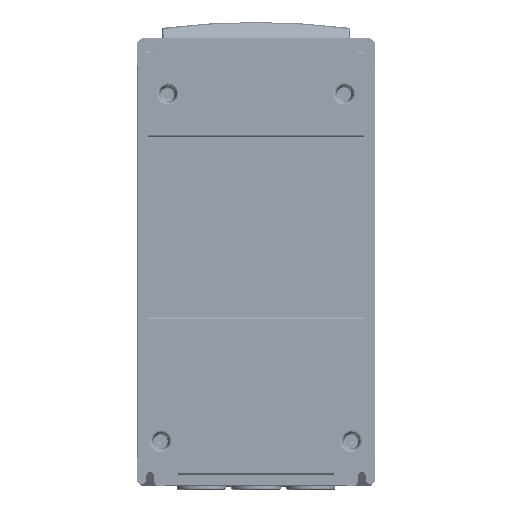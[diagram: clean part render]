
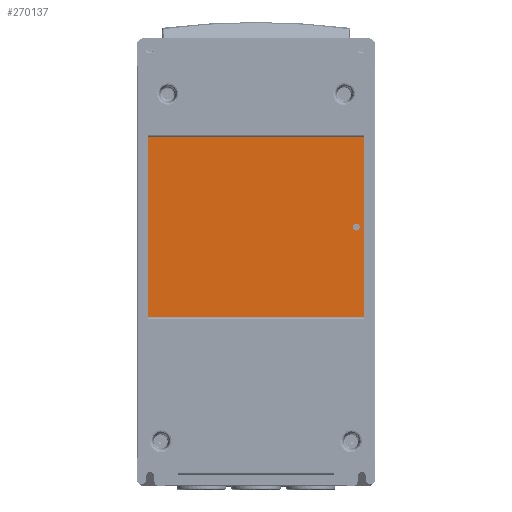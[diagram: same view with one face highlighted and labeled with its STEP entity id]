
A CAD part, front view. The second image highlights one B-rep face of the part: STEP entity #270137.
In plain terms, the highlighted planar face has unit normal (0, -1, 0) as drawn and (0, 0, 1) by its records, which use the part's own axes.
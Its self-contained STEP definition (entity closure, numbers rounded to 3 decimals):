
#1702 = ORIENTED_EDGE ( 'NONE', *, *, #61835, .T. ) ;
#9794 = VERTEX_POINT ( 'NONE', #97728 ) ;
#9889 = DIRECTION ( 'NONE',  ( 1., 0., 0. ) ) ;
#12224 = CARTESIAN_POINT ( 'NONE',  ( 77., 35.25, -9.7 ) ) ;
#15525 = FACE_OUTER_BOUND ( 'NONE', #207251, .T. ) ;
#22159 = VECTOR ( 'NONE', #237643, 1000. ) ;
#22894 = AXIS2_PLACEMENT_3D ( 'NONE', #158791, #264800, #347349 ) ;
#25383 = AXIS2_PLACEMENT_3D ( 'NONE', #237192, #153568, #289033 ) ;
#25821 = AXIS2_PLACEMENT_3D ( 'NONE', #283241, #255015, #9889 ) ;
#32346 = CARTESIAN_POINT ( 'NONE',  ( -77., 33.75, -9.7 ) ) ;
#42917 = DIRECTION ( 'NONE',  ( 0., 1., 0. ) ) ;
#53711 = CARTESIAN_POINT ( 'NONE',  ( 85., 35.25, -9.7 ) ) ;
#58664 = VERTEX_POINT ( 'NONE', #12224 ) ;
#61835 = EDGE_CURVE ( 'NONE', #121085, #9794, #302513, .T. ) ;
#66903 = ORIENTED_EDGE ( 'NONE', *, *, #86089, .T. ) ;
#80317 = VECTOR ( 'NONE', #42917, 1000. ) ;
#84982 = VERTEX_POINT ( 'NONE', #103907 ) ;
#86089 = EDGE_CURVE ( 'NONE', #58664, #84982, #282735, .T. ) ;
#87292 = FACE_BOUND ( 'NONE', #271677, .T. ) ;
#97728 = CARTESIAN_POINT ( 'NONE',  ( -69.1, 99.75, -9.7 ) ) ;
#101719 = CARTESIAN_POINT ( 'NONE',  ( -74.1, 99.75, -9.7 ) ) ;
#103907 = CARTESIAN_POINT ( 'NONE',  ( 77., 164.25, -9.7 ) ) ;
#121085 = VERTEX_POINT ( 'NONE', #101719 ) ;
#121564 = CARTESIAN_POINT ( 'NONE',  ( -77., 164.25, -9.7 ) ) ;
#142127 = ORIENTED_EDGE ( 'NONE', *, *, #207963, .T. ) ;
#153494 = VERTEX_POINT ( 'NONE', #121564 ) ;
#153568 = DIRECTION ( 'NONE',  ( 0., 0., 1. ) ) ;
#158791 = CARTESIAN_POINT ( 'NONE',  ( -71.6, 99.75, -9.7 ) ) ;
#204506 = CARTESIAN_POINT ( 'NONE',  ( 77., 33.75, -9.7 ) ) ;
#207251 = EDGE_LOOP ( 'NONE', ( #66903, #307131, #289427, #298385 ) ) ;
#207963 = EDGE_CURVE ( 'NONE', #9794, #121085, #291215, .T. ) ;
#216332 = DIRECTION ( 'NONE',  ( 1., 0., 0. ) ) ;
#216873 = VECTOR ( 'NONE', #297610, 1000. ) ;
#225077 = VECTOR ( 'NONE', #216332, 1000. ) ;
#236732 = CARTESIAN_POINT ( 'NONE',  ( -77., 35.25, -9.7 ) ) ;
#237192 = CARTESIAN_POINT ( 'NONE',  ( 85., 33.75, -9.7 ) ) ;
#237643 = DIRECTION ( 'NONE',  ( -1., 0., 0. ) ) ;
#243607 = EDGE_CURVE ( 'NONE', #84982, #153494, #338397, .T. ) ;
#255015 = DIRECTION ( 'NONE',  ( 0., 0., -1. ) ) ;
#263063 = PLANE ( 'NONE',  #25383 ) ;
#264800 = DIRECTION ( 'NONE',  ( 0., 0., -1. ) ) ;
#270137 = ADVANCED_FACE ( 'NONE', ( #87292, #15525 ), #263063, .T. ) ;
#271392 = LINE ( 'NONE', #53711, #225077 ) ;
#271677 = EDGE_LOOP ( 'NONE', ( #142127, #1702 ) ) ;
#275643 = LINE ( 'NONE', #32346, #216873 ) ;
#282735 = LINE ( 'NONE', #204506, #80317 ) ;
#283241 = CARTESIAN_POINT ( 'NONE',  ( -71.6, 99.75, -9.7 ) ) ;
#285480 = EDGE_CURVE ( 'NONE', #153494, #341472, #275643, .T. ) ;
#289033 = DIRECTION ( 'NONE',  ( 1., 0., 0. ) ) ;
#289427 = ORIENTED_EDGE ( 'NONE', *, *, #285480, .T. ) ;
#291215 = CIRCLE ( 'NONE', #22894, 2.5 ) ;
#291817 = CARTESIAN_POINT ( 'NONE',  ( 85., 164.25, -9.7 ) ) ;
#297610 = DIRECTION ( 'NONE',  ( 0., -1., 0. ) ) ;
#298385 = ORIENTED_EDGE ( 'NONE', *, *, #328145, .T. ) ;
#302513 = CIRCLE ( 'NONE', #25821, 2.5 ) ;
#307131 = ORIENTED_EDGE ( 'NONE', *, *, #243607, .T. ) ;
#328145 = EDGE_CURVE ( 'NONE', #341472, #58664, #271392, .T. ) ;
#338397 = LINE ( 'NONE', #291817, #22159 ) ;
#341472 = VERTEX_POINT ( 'NONE', #236732 ) ;
#347349 = DIRECTION ( 'NONE',  ( 1., 0., 0. ) ) ;
